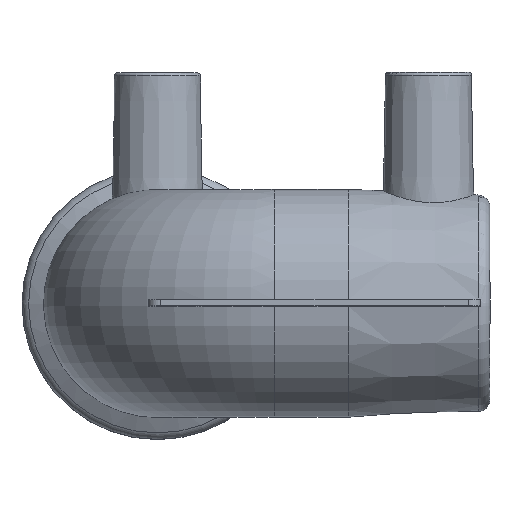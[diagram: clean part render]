
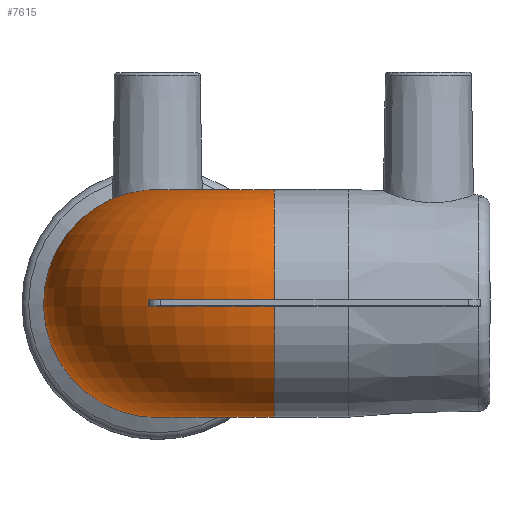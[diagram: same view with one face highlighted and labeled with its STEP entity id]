
A CAD part, top view. The second image highlights one B-rep face of the part: STEP entity #7615.
In plain terms, the highlighted toroidal (fillet/blend) face has major radius 19 mm and minor radius 18.5 mm.
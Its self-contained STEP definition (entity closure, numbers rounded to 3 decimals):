
#804=TOROIDAL_SURFACE('',#9835,19.,18.5);
#1070=CIRCLE('',#9834,18.5);
#1071=CIRCLE('',#9836,18.5);
#1072=CIRCLE('',#9837,37.493);
#1073=CIRCLE('',#9838,37.493);
#1488=ORIENTED_EDGE('',*,*,#3948,.F.);
#1489=ORIENTED_EDGE('',*,*,#3949,.T.);
#1490=ORIENTED_EDGE('',*,*,#3950,.F.);
#1491=ORIENTED_EDGE('',*,*,#3951,.F.);
#1492=ORIENTED_EDGE('',*,*,#3947,.T.);
#3947=EDGE_CURVE('',#5177,#5177,#1070,.F.);
#3948=EDGE_CURVE('',#5178,#5179,#1071,.F.);
#3949=EDGE_CURVE('',#5178,#5180,#1072,.T.);
#3950=EDGE_CURVE('',#5181,#5180,#5934,.T.);
#3951=EDGE_CURVE('',#5179,#5181,#1073,.T.);
#5177=VERTEX_POINT('',#12863);
#5178=VERTEX_POINT('',#12866);
#5179=VERTEX_POINT('',#12867);
#5180=VERTEX_POINT('',#12869);
#5181=VERTEX_POINT('',#12874);
#5934=B_SPLINE_CURVE_WITH_KNOTS('',3,(#12870,#12871,#12872,#12873),
 .UNSPECIFIED.,.F.,.F.,(4,4),(0.006,0.007),
 .UNSPECIFIED.);
#6385=EDGE_LOOP('',(#1488,#1489,#1490,#1491));
#6386=EDGE_LOOP('',(#1492));
#6981=FACE_BOUND('',#6385,.T.);
#6982=FACE_BOUND('',#6386,.T.);
#7615=ADVANCED_FACE('',(#6981,#6982),#804,.T.);
#9834=AXIS2_PLACEMENT_3D('',#12862,#10779,#10780);
#9835=AXIS2_PLACEMENT_3D('',#12864,#10781,#10782);
#9836=AXIS2_PLACEMENT_3D('',#12865,#10783,#10784);
#9837=AXIS2_PLACEMENT_3D('',#12868,#10785,#10786);
#9838=AXIS2_PLACEMENT_3D('',#12875,#10787,#10788);
#10779=DIRECTION('',(0.,0.,-1.));
#10780=DIRECTION('',(1.,0.,0.));
#10781=DIRECTION('',(0.,-1.,0.));
#10782=DIRECTION('',(0.,0.,-1.));
#10783=DIRECTION('',(-1.,0.,0.));
#10784=DIRECTION('',(0.,0.,-1.));
#10785=DIRECTION('',(0.,-1.,0.));
#10786=DIRECTION('',(0.,0.,-1.));
#10787=DIRECTION('',(0.,-1.,0.));
#10788=DIRECTION('',(0.,0.,-1.));
#12862=CARTESIAN_POINT('',(0.,0.,35.));
#12863=CARTESIAN_POINT('',(18.5,0.,35.));
#12864=CARTESIAN_POINT('',(19.,0.,35.));
#12865=CARTESIAN_POINT('',(19.,0.,54.));
#12866=CARTESIAN_POINT('',(19.,-0.5,72.493));
#12867=CARTESIAN_POINT('',(19.,0.5,72.493));
#12868=CARTESIAN_POINT('',(19.,-0.5,35.));
#12869=CARTESIAN_POINT('',(7.5,-0.5,70.686));
#12870=CARTESIAN_POINT('',(7.5,0.5,70.686));
#12871=CARTESIAN_POINT('',(7.5,0.165,70.696));
#12872=CARTESIAN_POINT('',(7.5,-0.168,70.695));
#12873=CARTESIAN_POINT('',(7.5,-0.5,70.686));
#12874=CARTESIAN_POINT('',(7.5,0.5,70.686));
#12875=CARTESIAN_POINT('',(19.,0.5,35.));
